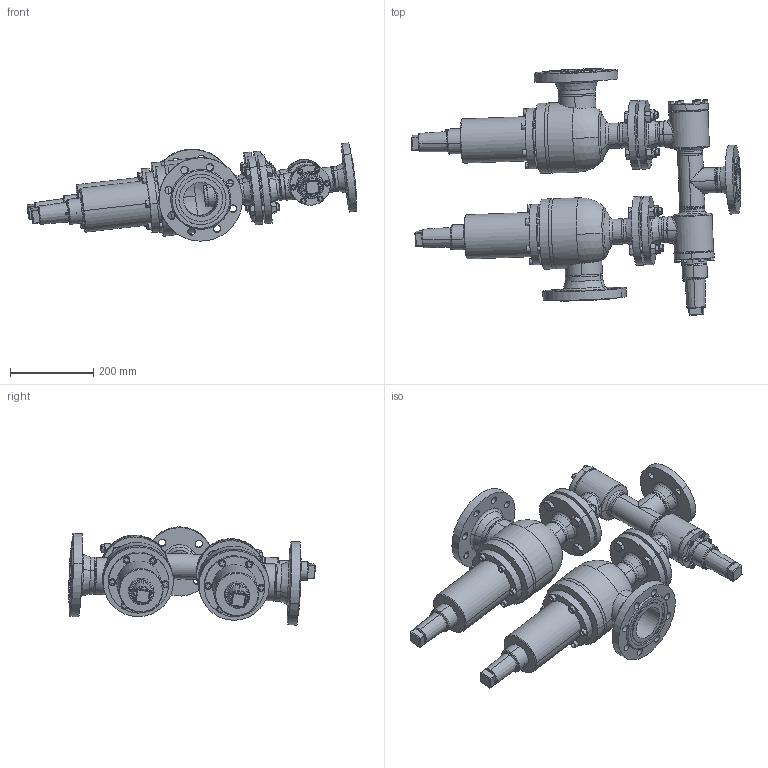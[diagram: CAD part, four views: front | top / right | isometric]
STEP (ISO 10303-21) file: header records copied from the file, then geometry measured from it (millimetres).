
FILE_DESCRIPTION (( 'STEP AP214' ), '1' );
FILE_NAME ('WVR-SVUB_168FL_DN50_DIN-FL.STEP', '2010-09-10T05:24:15', ( 'Eckhard Grams' ), ( 'AWP Kälte Klima Armaturen GmbH' ), 'SwSTEP 2.0', 'SolidWorks 2002296', '' );
FILE_SCHEMA (( 'AUTOMOTIVE_DESIGN' ));
Length unit declared in the file: millimetre
Products named in the file (38): WVR-SVUB_168FL_DN50_DIN-FL; WVR24020D15-DN050_DIN-FL-N-F_PS40_Standard; Geh,kpl23020E15-DN050_DIN-FL-N-F_PS40_Standard; Geh,kpl23000E15-DN050_R1_PS40_Standard; bead23000-15-2_Standard; bead23000-15-1_Standard; T-Stück DIN2615_DN 50; Gehäuse23000E15-DN050_R1_PS40_Standard; bead23020-15-3_Standard; bead23020-15-2_Standard; bead23020-15-1_Standard; Flansch-DIN2635-Feder_PS40_DIN-Flansch-DN050_PS40-Feder; AVR26300E15_Deck+Schr-DN40-50_Standard; Deckel26300E15-DN40-50_Standard; WVB-R23000E15_Deck+Schr-DN40-50_Standard; Deckel23000E15-DN40-50_Standard; Zylinderschraube-DIN912_M 8x  25; SVUB44200C15-DN50-(80)_DIN-FL_Standard; Loser-FL44200-15-DN50-SVU_PS25_Standard; Flach-Dichtring44331-20-65_DN 50; Haube44331-15-DN50_kpl-lt-ZG_Standard; Geh,kpl 44331-15-DN50-(80)_DIN-FL-N_Standard; Flansch-DIN2635-Nut_PS40_DIN-Flansch-DN080_PS40-Nut; Geh,kpl 44331-15-DN50-(80)_R1_PS25_Standard; Kopfstück44331-15-DN50_Standard; Geh44331-15-DN50_R1_DN50-80; Rohrstutzen-A44331-15-DN50-(80)_R1_SVU; Sitzstutzen44331-15-DN50_kpl-im-geh_Standard; bead44331-15-Gehkpl1_Standard; bead44331-15-Sitzst-Geh_Standard; Flansch-DIN2635-Nut_PS40_DIN-Flansch-DN050_PS40-Nut; bead44331-15-Flana-A_Standard; bead44331-15-Flana-E_Standard; Zylinderschraube-DIN912_M10x 35; geteilter Ring4433-15-DN50_PS25_Standard; Kappe 16402-15_DN40-65 (M52x3)_Standard; Sechskantschraube-DIN933_M16x 60; Sechskantmutter-DIN934_M16
Assembly tree (72 placements, depth 5):
  WVR-SVUB_168FL_DN50_DIN-FL
    SVUB44200C15-DN50-(80)_DIN-FL_Standard  x2
      Loser-FL44200-15-DN50-SVU_PS25_Standard
      Zylinderschraube-DIN912_M10x 35
      Haube44331-15-DN50_kpl-lt-ZG_Standard
      Flach-Dichtring44331-20-65_DN 50
      Geh,kpl 44331-15-DN50-(80)_DIN-FL-N_Standard
        bead44331-15-Flana-E_Standard
        Flansch-DIN2635-Nut_PS40_DIN-Flansch-DN050_PS40-Nut
        Geh,kpl 44331-15-DN50-(80)_R1_PS25_Standard
          Geh44331-15-DN50_R1_DN50-80
          Kopfstück44331-15-DN50_Standard
          Rohrstutzen-A44331-15-DN50-(80)_R1_SVU
          Sitzstutzen44331-15-DN50_kpl-im-geh_Standard
          bead44331-15-Gehkpl1_Standard
          bead44331-15-Sitzst-Geh_Standard
        bead44331-15-Flana-A_Standard
        Flansch-DIN2635-Nut_PS40_DIN-Flansch-DN080_PS40-Nut
      Kappe 16402-15_DN40-65 (M52x3)_Standard
      geteilter Ring4433-15-DN50_PS25_Standard
    Sechskantmutter-DIN934_M16  x8
    Sechskantschraube-DIN933_M16x 60  x8
    WVR24020D15-DN050_DIN-FL-N-F_PS40_Standard
      Kappe 16402-15_DN40-65 (M52x3)_Standard
      AVR26300E15_Deck+Schr-DN40-50_Standard
        Zylinderschraube-DIN912_M 8x  25  x6
        Deckel26300E15-DN40-50_Standard
      WVB-R23000E15_Deck+Schr-DN40-50_Standard
        Zylinderschraube-DIN912_M 8x  25  x6
        Deckel23000E15-DN40-50_Standard
      Geh,kpl23020E15-DN050_DIN-FL-N-F_PS40_Standard
        Flansch-DIN2635-Feder_PS40_DIN-Flansch-DN050_PS40-Feder  x2
        bead23020-15-1_Standard
        Geh,kpl23000E15-DN050_R1_PS40_Standard
          T-Stück DIN2615_DN 50
          bead23000-15-1_Standard
          Gehäuse23000E15-DN050_R1_PS40_Standard  x2
          bead23000-15-2_Standard
        bead23020-15-2_Standard
        Flansch-DIN2635-Nut_PS40_DIN-Flansch-DN050_PS40-Nut
        bead23020-15-3_Standard
Bounding box: 790.02 x 590.68 x 235.37 mm (x, y, z)
Volume: 7855787.7 mm3; surface area: 1835899.5 mm2
Topology: 86 solids, 86 shells, 1931 faces, 4413 edges, 2699 vertices
Faces by surface type: cylinder 634, plane 575, cone 495, torus 129, bspline 88, sphere 10
Entity records: 51297 total; most frequent: CARTESIAN_POINT 33646, DIRECTION 3335, ORIENTED_EDGE 3046, EDGE_CURVE 1523, AXIS2_PLACEMENT_3D 1421, VERTEX_POINT 942, EDGE_LOOP 797, CIRCLE 730
